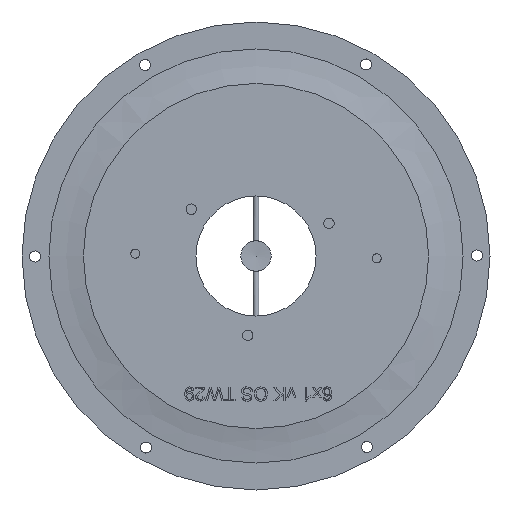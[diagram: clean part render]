
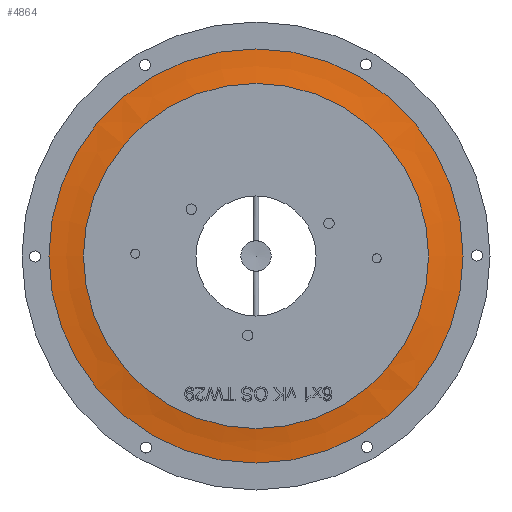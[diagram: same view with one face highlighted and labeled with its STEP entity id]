
A CAD part, front view. The second image highlights one B-rep face of the part: STEP entity #4864.
In plain terms, the highlighted free-form (B-spline) face has degree [2, 2] with [3, 9] control points.
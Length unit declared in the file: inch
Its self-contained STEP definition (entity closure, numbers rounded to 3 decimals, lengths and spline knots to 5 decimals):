
#11=(
BOUNDED_SURFACE()
B_SPLINE_SURFACE(2,2,((#9808,#9809,#9810,#9811,#9812,#9813,#9814,#9815,
#9816),(#9817,#9818,#9819,#9820,#9821,#9822,#9823,#9824,#9825),(#9826,#9827,
#9828,#9829,#9830,#9831,#9832,#9833,#9834)),.UNSPECIFIED.,.F.,.T.,.F.)
B_SPLINE_SURFACE_WITH_KNOTS((3,3),(3,2,2,2,3),(1.64904,1.7916),
(-3.14159,-1.5708,0.,1.5708,3.14159),
 .UNSPECIFIED.)
GEOMETRIC_REPRESENTATION_ITEM()
RATIONAL_B_SPLINE_SURFACE(((1.,0.707,1.,0.707,1.,
0.707,1.,0.707,1.),(0.997,0.705,
0.997,0.705,0.997,0.705,
0.997,0.705,0.997),(1.,0.707,
1.,0.707,1.,0.707,1.,0.707,1.)))
REPRESENTATION_ITEM('')
SURFACE()
);
#1071=CIRCLE('',#5001,2.5);
#1072=CIRCLE('',#5002,2.5);
#1099=CIRCLE('',#5049,3.);
#1101=CIRCLE('',#5051,3.);
#1105=CIRCLE('',#5059,3.55);
#1375=FACE_OUTER_BOUND('',#1682,.T.);
#1682=EDGE_LOOP('',(#4586,#4587,#4588,#4589,#4590,#4591));
#2424=VERTEX_POINT('',#9702);
#2425=VERTEX_POINT('',#9703);
#2452=VERTEX_POINT('',#9791);
#2453=VERTEX_POINT('',#9792);
#3119=EDGE_CURVE('',#2424,#2425,#1071,.T.);
#3121=EDGE_CURVE('',#2425,#2424,#1072,.T.);
#3160=EDGE_CURVE('',#2452,#2453,#1099,.T.);
#3163=EDGE_CURVE('',#2453,#2452,#1101,.T.);
#3168=EDGE_CURVE('',#2425,#2452,#1105,.T.);
#4586=ORIENTED_EDGE('',*,*,#3119,.T.);
#4587=ORIENTED_EDGE('',*,*,#3168,.T.);
#4588=ORIENTED_EDGE('',*,*,#3163,.F.);
#4589=ORIENTED_EDGE('',*,*,#3160,.F.);
#4590=ORIENTED_EDGE('',*,*,#3168,.F.);
#4591=ORIENTED_EDGE('',*,*,#3121,.T.);
#4864=ADVANCED_FACE('',(#1375),#11,.T.);
#5001=AXIS2_PLACEMENT_3D('',#9704,#5652,#5653);
#5002=AXIS2_PLACEMENT_3D('',#9706,#5655,#5656);
#5049=AXIS2_PLACEMENT_3D('',#9793,#5761,#5762);
#5051=AXIS2_PLACEMENT_3D('',#9797,#5766,#5767);
#5059=AXIS2_PLACEMENT_3D('',#9835,#5783,#5784);
#5652=DIRECTION('center_axis',(0.,1.,0.));
#5653=DIRECTION('ref_axis',(1.,0.,0.));
#5655=DIRECTION('center_axis',(0.,1.,0.));
#5656=DIRECTION('ref_axis',(1.,0.,0.));
#5761=DIRECTION('center_axis',(0.,1.,0.));
#5762=DIRECTION('ref_axis',(1.,0.,0.));
#5766=DIRECTION('center_axis',(0.,1.,0.));
#5767=DIRECTION('ref_axis',(1.,0.,0.));
#5783=DIRECTION('center_axis',(-1.,0.,0.));
#5784=DIRECTION('ref_axis',(0.,0.,-1.));
#9702=CARTESIAN_POINT('',(-2.5,0.7241,0.));
#9703=CARTESIAN_POINT('',(0.,0.7241,-2.5));
#9704=CARTESIAN_POINT('Origin',(0.,0.7241,
0.));
#9706=CARTESIAN_POINT('Origin',(0.,0.7241,
0.));
#9791=CARTESIAN_POINT('',(0.,0.79942,-3.));
#9792=CARTESIAN_POINT('',(3.,0.79942,0.));
#9793=CARTESIAN_POINT('Origin',(0.,0.79942,0.));
#9797=CARTESIAN_POINT('Origin',(0.,0.79942,0.));
#9808=CARTESIAN_POINT('Ctrl Pts',(0.,0.79942,
-3.));
#9809=CARTESIAN_POINT('Ctrl Pts',(-3.,0.79942,-3.));
#9810=CARTESIAN_POINT('Ctrl Pts',(-3.,0.79942,0.));
#9811=CARTESIAN_POINT('Ctrl Pts',(-3.,0.79942,3.));
#9812=CARTESIAN_POINT('Ctrl Pts',(0.,0.79942,3.));
#9813=CARTESIAN_POINT('Ctrl Pts',(3.,0.79942,3.));
#9814=CARTESIAN_POINT('Ctrl Pts',(3.,0.79942,0.));
#9815=CARTESIAN_POINT('Ctrl Pts',(3.,0.79942,-3.));
#9816=CARTESIAN_POINT('Ctrl Pts',(0.,0.79942,
-3.));
#9817=CARTESIAN_POINT('Ctrl Pts',(0.,0.77961,
-2.74731));
#9818=CARTESIAN_POINT('Ctrl Pts',(-2.74731,0.77961,-2.74731));
#9819=CARTESIAN_POINT('Ctrl Pts',(-2.74731,0.77961,0.));
#9820=CARTESIAN_POINT('Ctrl Pts',(-2.74731,0.77961,2.74731));
#9821=CARTESIAN_POINT('Ctrl Pts',(0.,0.77961,
2.74731));
#9822=CARTESIAN_POINT('Ctrl Pts',(2.74731,0.77961,2.74731));
#9823=CARTESIAN_POINT('Ctrl Pts',(2.74731,0.77961,0.));
#9824=CARTESIAN_POINT('Ctrl Pts',(2.74731,0.77961,-2.74731));
#9825=CARTESIAN_POINT('Ctrl Pts',(0.,0.77961,
-2.74731));
#9826=CARTESIAN_POINT('Ctrl Pts',(0.,0.7241,
-2.5));
#9827=CARTESIAN_POINT('Ctrl Pts',(-2.5,0.7241,-2.5));
#9828=CARTESIAN_POINT('Ctrl Pts',(-2.5,0.7241,0.));
#9829=CARTESIAN_POINT('Ctrl Pts',(-2.5,0.7241,2.5));
#9830=CARTESIAN_POINT('Ctrl Pts',(0.,0.7241,
2.5));
#9831=CARTESIAN_POINT('Ctrl Pts',(2.5,0.7241,2.5));
#9832=CARTESIAN_POINT('Ctrl Pts',(2.5,0.7241,0.));
#9833=CARTESIAN_POINT('Ctrl Pts',(2.5,0.7241,-2.5));
#9834=CARTESIAN_POINT('Ctrl Pts',(0.,0.7241,
-2.5));
#9835=CARTESIAN_POINT('Origin',(0.,-2.73972,
-3.27749));
